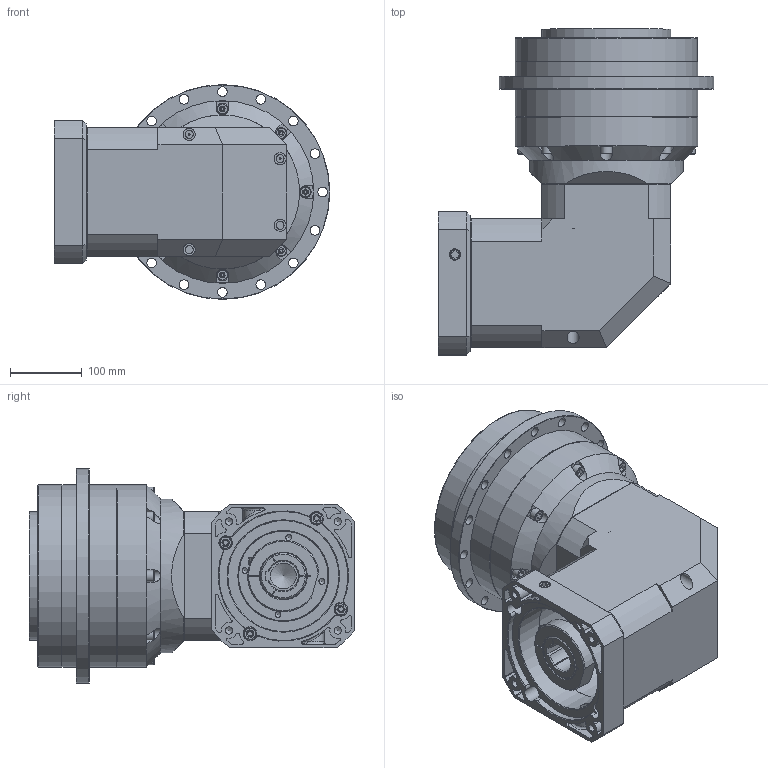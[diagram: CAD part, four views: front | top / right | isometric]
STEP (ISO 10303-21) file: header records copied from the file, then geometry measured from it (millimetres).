
FILE_DESCRIPTION((''),'2;1');
FILE_NAME('D:\WORK\감속기 카다로그 도면\ATG Reducer(홈페이지)\KSDL\KSDL-255-2.stp','2015-04-27T16:54:54',('young'),(''),'Autodesk Inventor 2012','Autodesk Inventor 2012','');
FILE_SCHEMA(('CONFIG_CONTROL_DESIGN'));
Length unit declared in the file: millimetre
Products named in the file (1): KSDL-255-2
Bounding box: 385 x 455.1 x 300 mm (x, y, z)
Volume: 14034317.4 mm3; surface area: 1442247.6 mm2
Topology: 25 solids, 27 shells, 975 faces, 2954 edges, 2108 vertices
Faces by surface type: plane 445, cylinder 317, cone 172, torus 22, bspline 19
Full cylindrical faces by diameter (mm): 2.5 x4, 3.3 x8, 4.5 x8, 8 x4, 8.5 x1, 10 x9, 10.2 x8, 11 x5, 12 x5, 13 x7, 13.5 x16, 14 x12, 14.46 x6, 14.5 x4, 15.607 x2, 16 x9, 17 x4, 18 x4, 19 x4, 36 x1, 38 x1, 40 x2, 44 x1, 52 x1, 65.4 x1, 70 x1, 74.7 x1, 75 x1, 80 x1, 81 x1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
Entity records: 49976 total; most frequent: CARTESIAN_POINT 25676, ORIENTED_EDGE 5064, DIRECTION 4475, EDGE_CURVE 2532, VERTEX_POINT 2016, AXIS2_PLACEMENT_3D 1840, EDGE_LOOP 1458, FACE_OUTER_BOUND 965
